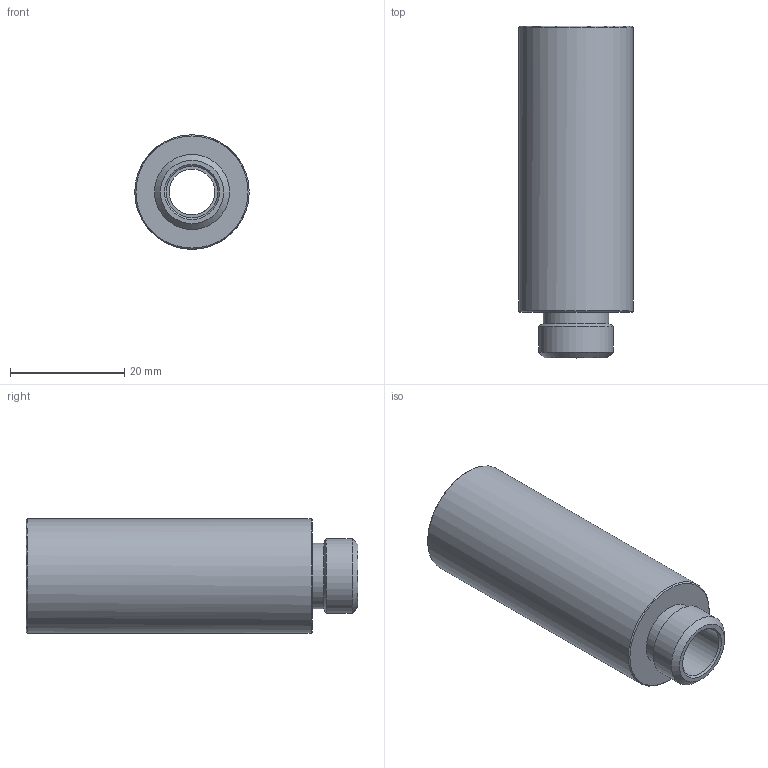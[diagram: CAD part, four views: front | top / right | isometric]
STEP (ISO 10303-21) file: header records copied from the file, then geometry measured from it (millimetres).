
FILE_DESCRIPTION(/* description */ ('SILEZIATORE G1/4"'),/* implementation_level */ '2;1');
FILE_NAME(/* name */ 'C:\PNX_VAULTFOLDER\Area Tecnica\Disegni\VARIE-3D\Componenti\1900 (vuoto)\19S14_S.stp',/* time_stamp */ '2019-09-13T14:47:14+02:00',/* author */ ('maniean1'),/* organization */ ('Pneumax S.p.A.'),/* preprocessor_version */ 'ST-DEVELOPER v17',/* originating_system */ 'Autodesk Inventor 2019',/* authorisation */ '');
FILE_SCHEMA (('AUTOMOTIVE_DESIGN { 1 0 10303 214 3 1 1 }'));
Length unit declared in the file: millimetre
Products named in the file (1): 19S14.S
Bounding box: 20 x 58 x 20 mm (x, y, z)
Volume: 13536.7 mm3; surface area: 5500.5 mm2
Topology: 1 solids, 1 shells, 17 faces, 38 edges, 26 vertices
Faces by surface type: cylinder 6, cone 6, plane 5
Full cylindrical faces by diameter (mm): 8 x1, 9 x2, 11.5 x1, 13.1 x1, 20 x1
Entity records: 568 total; most frequent: DIRECTION 100, CARTESIAN_POINT 82, ORIENTED_EDGE 76, AXIS2_PLACEMENT_3D 44, EDGE_CURVE 38, CIRCLE 26, VERTEX_POINT 26, EDGE_LOOP 22
